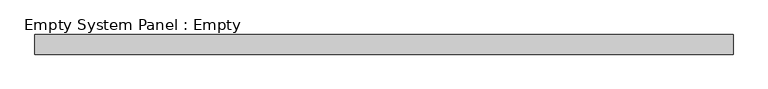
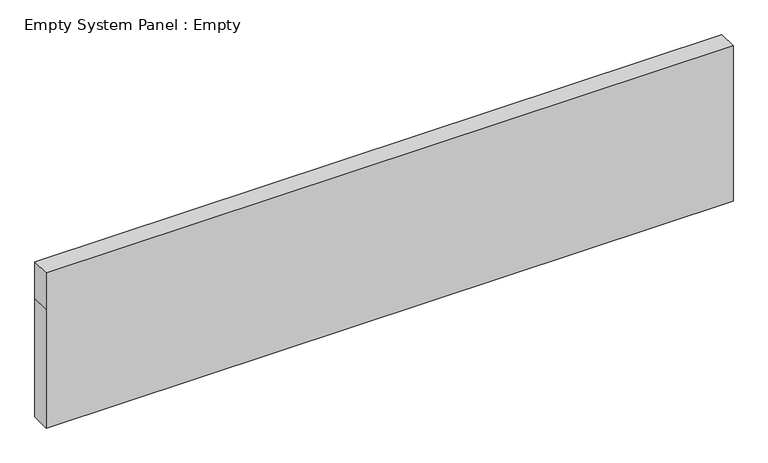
"""IFC4 building model written with IfcOpenShell, lengths in millimetres: plate geometry, Empty System Panel : Empty."""

from ifc_helpers import new_model, si_unit, frame, origin, place, context, project, spatial, polyline, outline, extrude, source, transform, mapped, element, save


def empty_system_panel_empty_b2decce4(model_context):
    return source(origin(), model_context, "Body", "SweptSolid", [
        extrude(outline(polyline([(0.0, -1781.25), (0.0, 1781.25), (650.0, 1781.25), (850.0, 1781.25), (850.0, -1781.25), (650.0, -1781.25), (0.0, -1781.25)])), frame((0.0, -50.0, 0.0), z_axis=(0.0, 1.0, 0.0), x_axis=(0.0, 0.0, 1.0)), (0.0, 0.0, 1.0), 100.0),
    ])


if __name__ == "__main__":
    model = new_model("IFC4")
    model_context = context("Model", 3, world=origin())
    ifc_project = project(units=[si_unit("LENGTHUNIT", "METRE", prefix="MILLI")], contexts=[model_context])
    site = spatial("IfcSite", under=ifc_project)
    building = spatial("IfcBuilding", under=site)
    placement = place(None, origin())
    empty_system_panel_empty_shape = empty_system_panel_empty_b2decce4(model_context)
    element("IfcPlate", 1, ObjectType="Empty System Panel : Empty", at=placement, inside=building, context=model_context, shape_type="MappedRepresentation", body=[
        mapped(empty_system_panel_empty_shape, transform((0.0, 0.0, 0.0), x_axis=(1.0, 0.0, 0.0), y_axis=(0.0, 1.0, 0.0), z_axis=(0.0, 0.0, 1.0))),
    ])
    save(model, "model.ifc")
